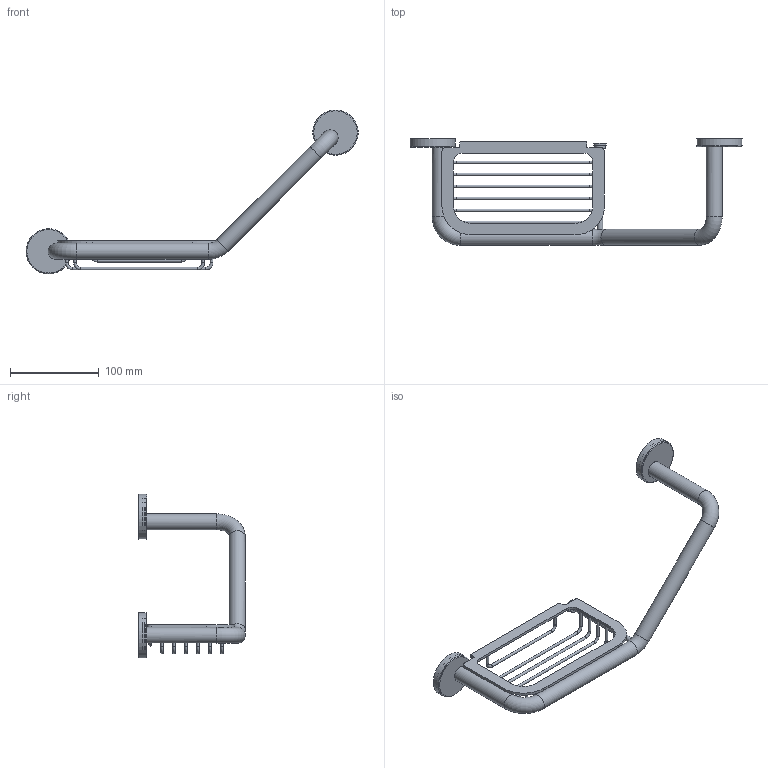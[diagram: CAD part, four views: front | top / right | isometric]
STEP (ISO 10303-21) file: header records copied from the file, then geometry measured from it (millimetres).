
FILE_DESCRIPTION(/* description */ (''),/* implementation_level */ '2;1');
FILE_NAME(/* name */ '4111106',/* time_stamp */ '2021-01-26T16:02:19+08:00',/* author */ (''),/* organization */ (''),/* preprocessor_version */ 'ST-DEVELOPER v9',/* originating_system */ 'UGS - NX 4.0',/* authorisation */ '');
FILE_SCHEMA (('CONFIG_CONTROL_DESIGN'));
Length unit declared in the file: millimetre
Products named in the file (1): w335406j6vo
Bounding box: 373.99 x 120 x 184.73 mm (x, y, z)
Volume: 197415.4 mm3; surface area: 89792.6 mm2
Topology: 9 solids, 9 shells, 164 faces, 391 edges, 251 vertices
Faces by surface type: cylinder 77, plane 58, torus 25, cone 4
Full cylindrical faces by diameter (mm): 3 x21, 5 x4, 6 x2, 8 x2, 8.2 x2, 9.5 x4, 12 x1, 14 x1, 18 x6, 18.3 x2, 48.4 x4, 50 x2, 51 x2
Entity records: 4314 total; most frequent: DIRECTION 774, CARTESIAN_POINT 730, ORIENTED_EDGE 564, AXIS2_PLACEMENT_3D 328, EDGE_LOOP 286, EDGE_CURVE 282, VERTEX_POINT 226, FACE_BOUND 202
